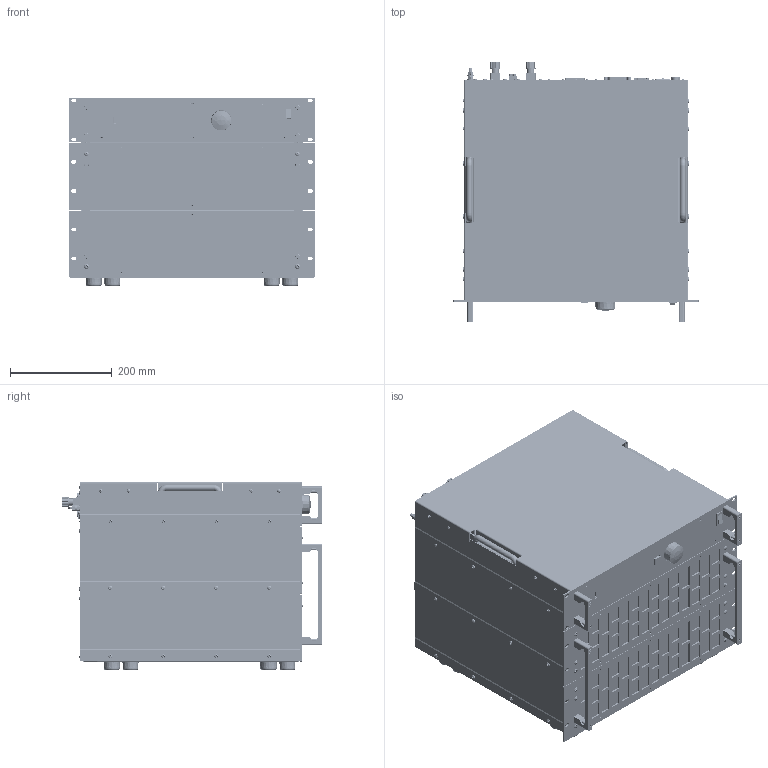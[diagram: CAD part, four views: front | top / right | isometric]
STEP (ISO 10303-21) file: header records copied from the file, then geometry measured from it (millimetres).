
FILE_DESCRIPTION(('STEP AP214'),'1');
FILE_NAME('QL_M17_19Z_8HE_BPK4_60L_3D_01.step','2022-03-17T08:20:56',(' '),(' '),'Spatial InterOp 3D',' ',' ');
FILE_SCHEMA(('AUTOMOTIVE_DESIGN { 1 0 10303 214 1 1 1 1 }'));
Length unit declared in the file: millimetre
Products named in the file (41): DIN 7985-AxM4 X 0.7x5; 3HE_Leistungsteil_mit_Gummifüssen_3D_01; *U404; *U405; *U406; *U415; AutoCreatedBlock_4115; 3HE_Leistungsteil_3D_01; *U519; *U520; *U521; AutoCreatedBlock_4141; DIN 966-A; Steuereinheit_BPK4_60L_mit_BG441_3D_01; 2121_Steuerteil_modular_Seitenteil_links_3D_02; 2122_Steuerteil_modular_Seitenteil_rechts_3D_02; A$C5EF2ED09; 3xM2.5_5x5x12; AutoCreatedBlock_4161; A$C6092449D; Frontplatte_5HE_Steuerteil_mit_Einbauten_3D; A$C60925E47; A$C60A76697; BG441_mit_MT1955_3D_01; *U806; AutoCreatedBlock_4173; 2246_QL Rückwand Steuerteil 5HE_mit_Einbauten_3D_01; *U305; *U306; *U307; AutoCreatedBlock_4177; 2257_QL_IO Panel Standard_3D_01; 2084_IO-Port Abdeckung_3D_01; *U888; *U889; *U890; *U891; *U892; AutoCreatedBlock_4151; AutoCreatedBlock_4109
Assembly tree (153 placements, depth 4):
  (unnamed)
    DIN 7985-AxM4 X 0.7x5  x4
    3HE_Leistungsteil_mit_Gummifüssen_3D_01
      *U404  x10
      *U405  x6
      *U406  x6
      *U415  x6
      AutoCreatedBlock_4115
    3HE_Leistungsteil_3D_01
      *U519  x14
      *U520  x6
      *U521  x6
      AutoCreatedBlock_4141
    DIN 966-A  x5
    Steuereinheit_BPK4_60L_mit_BG441_3D_01
      2121_Steuerteil_modular_Seitenteil_links_3D_02
      2122_Steuerteil_modular_Seitenteil_rechts_3D_02
      A$C5EF2ED09
        3xM2.5_5x5x12  x2
        AutoCreatedBlock_4161
      A$C6092449D
      Frontplatte_5HE_Steuerteil_mit_Einbauten_3D
      A$C60925E47
      A$C60A76697
      BG441_mit_MT1955_3D_01
        *U806  x2
        AutoCreatedBlock_4173
      2246_QL Rückwand Steuerteil 5HE_mit_Einbauten_3D_01
        *U305
        *U306  x2
        *U307  x3
        AutoCreatedBlock_4177
      2257_QL_IO Panel Standard_3D_01
      2084_IO-Port Abdeckung_3D_01  x2
      *U888  x17
      *U889  x9
      *U890  x26
      *U891  x2
      *U892  x4
      AutoCreatedBlock_4151
    AutoCreatedBlock_4109
Bounding box: 482.61 x 511.97 x 371.22 mm (x, y, z)
Volume: 33469299.5 mm3; surface area: 4642833.7 mm2
Topology: 430 solids, 781 shells, 28200 faces, 70595 edges, 44280 vertices
Faces by surface type: plane 12323, cone 10683, cylinder 4144, torus 449, sphere 302, bspline 277, extrusion 22
Entity records: 866514 total; most frequent: CARTESIAN_POINT 159539, DIRECTION 113794, ORIENTED_EDGE 106418, EDGE_CURVE 54363, AXIS2_PLACEMENT_3D 39189, VECTOR 35416, LINE 35394, VERTEX_POINT 34269
